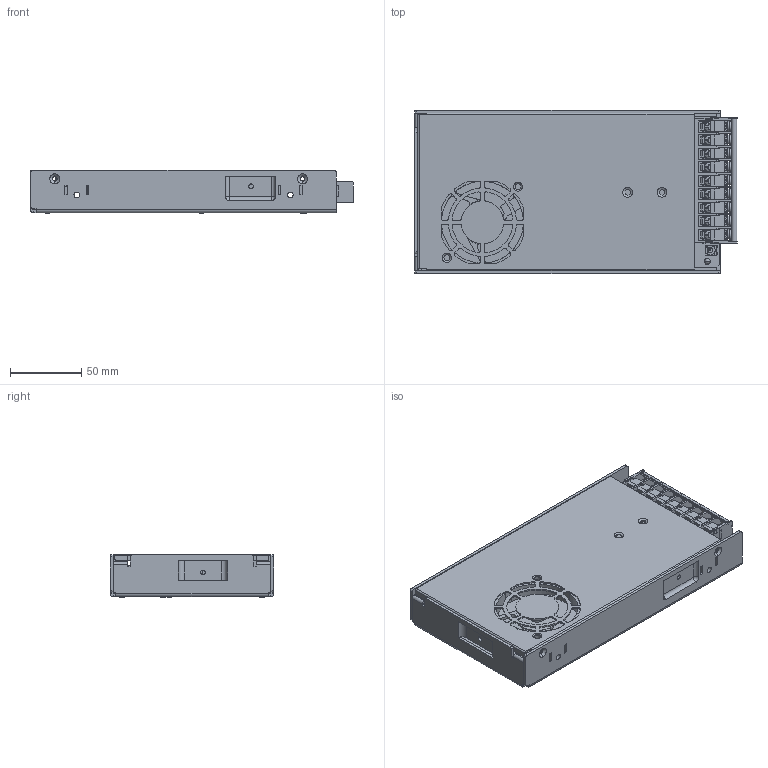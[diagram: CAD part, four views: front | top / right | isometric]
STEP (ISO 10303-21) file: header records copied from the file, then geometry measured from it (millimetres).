
FILE_DESCRIPTION((''),'2;1');
FILE_NAME('CASE_ASM','2014-08-06T',('ERIC.YP.CHEN'),(''),'PRO/ENGINEER BY PARAMETRIC TECHNOLOGY CORPORATION, 2010280','PRO/ENGINEER BY PARAMETRIC TECHNOLOGY CORPORATION, 2010280','');
FILE_SCHEMA(('CONFIG_CONTROL_DESIGN'));
Products named in the file (26): CHASSIS; CHASSIS-STANDOFF; CHASSIS-STANDOFF-1; COVER-00; CHASSIS_ASM; INSULATOR; PWB_2_25_2013; T44-ES1109A301-20121225; VR1_; LEG1_; VR_LEG__ASM; 3105325300-L8; FAN; LED_HOLDER; 1; 2; 3; 4; 5; 6; 7; 8; 9; 10; T14-EO3109A301_ASM; CASE_ASM
Assembly tree (34 placements, depth 3):
  CASE_ASM
    CHASSIS_ASM
      CHASSIS
      CHASSIS-STANDOFF  x2
      CHASSIS-STANDOFF-1  x3
      COVER-00
    INSULATOR
    PWB_2_25_2013
    T44-ES1109A301-20121225
    VR_LEG__ASM
      VR1_
      LEG1_  x3
    3105325300-L8  x5
    FAN
    LED_HOLDER
    T14-EO3109A301_ASM
      1
      2
      3
      4
      5
      6
      7
      8
      9
      10
Bounding box: 226.9 x 115 x 30.9 mm (x, y, z)
Volume: 177006.3 mm3; surface area: 263952.3 mm2
Topology: 34 solids, 36 shells, 4486 faces, 12582 edges, 8220 vertices
Faces by surface type: plane 2758, cylinder 1202, bspline 221, torus 198, cone 79, sphere 28
Entity records: 149786 total; most frequent: CARTESIAN_POINT 45448, ORIENTED_EDGE 23008, DIRECTION 19975, EDGE_CURVE 11504, VERTEX_POINT 7560, VECTOR 7221, LINE 7221, AXIS2_PLACEMENT_3D 6377
